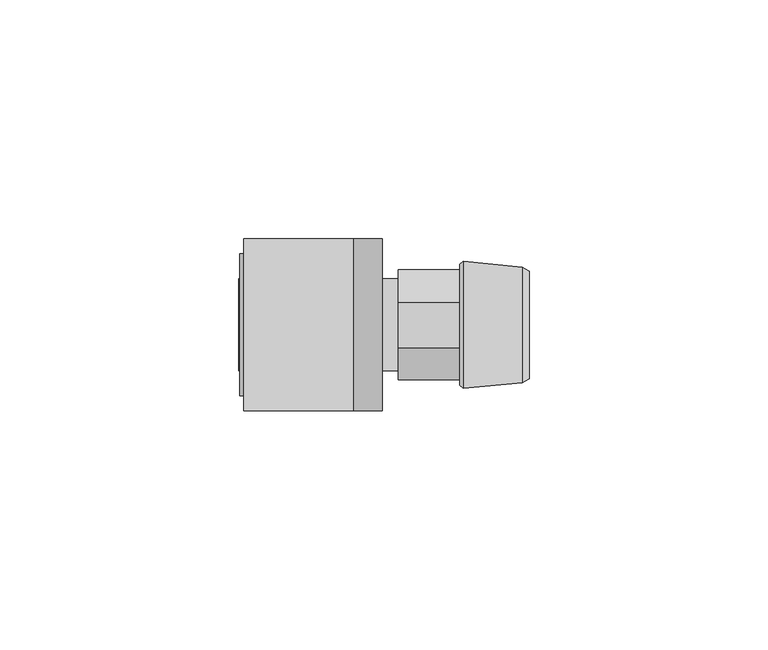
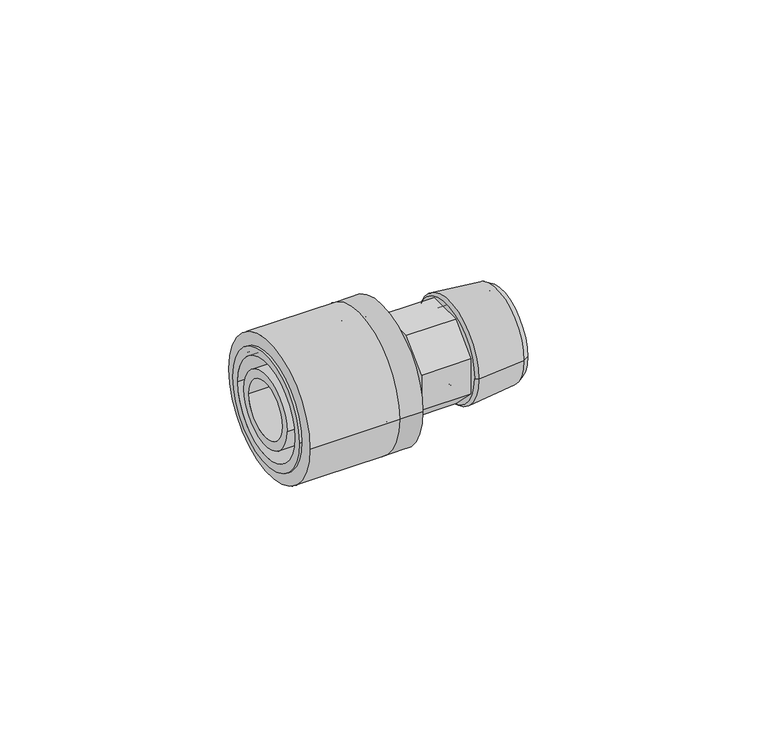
"""IFC4 building model written with IfcOpenShell, lengths in millimetres: pipe fitting geometry, FASTLOC_Adapter_LX, with external thread : FSL A C external CZ."""

import ifcopenshell
import ifcopenshell.guid

model = None  # the IFC model being written
_history = None  # IfcOwnerHistory: only IFC2X3 demands one
_inside = {}  # id of a spatial element -> (the spatial element, [elements in it])
_under = {}  # id of a project, library or spatial element -> (it, [spatial elements below it])
_declared = {}  # id of a project -> (the project, [libraries it declares])
_typed = {}  # id of a type object -> (the type object, [elements of that type])
_made_of = {}  # id of a material, layer set ... -> (it, [elements and type objects made of it])


def new_model(schema):
    """Start an empty IFC model of exactly this schema.

    Asked for "IFC4X3", IfcOpenShell would pick the latest addendum, in which some entities
    have other attributes; the version numbers below select the first issue.
    IFC2X3 requires an IfcOwnerHistory on every rooted entity: one is made here for all.
    """
    global model, _history
    if schema == "IFC4X3":
        model = ifcopenshell.file(schema_version=(4, 3, 0, 0))
    else:
        model = ifcopenshell.file(schema=schema)
    _inside.clear()
    _under.clear()
    _declared.clear()
    _typed.clear()
    _made_of.clear()
    _history = None
    if model.schema == "IFC2X3":
        org = make("IfcOrganization", Name="unknown")
        user = make(
            "IfcPersonAndOrganization",
            ThePerson=make("IfcPerson", FamilyName="unknown"),
            TheOrganization=org,
        )
        app = make(
            "IfcApplication",
            ApplicationDeveloper=org,
            Version="unknown",
            ApplicationFullName="unknown",
            ApplicationIdentifier="unknown",
        )
        _history = make(
            "IfcOwnerHistory",
            OwningUser=user,
            OwningApplication=app,
            ChangeAction="ADDED",
            CreationDate=0,
        )
    return model


def make(cls, **values):
    """One entity of the class cls with the attributes given. An attribute that is None is left unset."""
    return model.create_entity(
        cls, **{name: value for name, value in values.items() if value is not None}
    )


def rooted(cls, **values):
    """An entity with a GlobalId (a new one), such as an element, a storey or a relation."""
    return make(cls, GlobalId=ifcopenshell.guid.new(), OwnerHistory=_history, **values)


def si_unit(unit_type, name, prefix=None):
    """IfcSIUnit, for example si_unit("LENGTHUNIT", "METRE", prefix="MILLI")."""
    return make("IfcSIUnit", UnitType=unit_type, Prefix=prefix, Name=name)


def assignment(units):
    """IfcUnitAssignment: the units of a project."""
    return None if units is None else make("IfcUnitAssignment", Units=units)


def point(xyz):
    """IfcCartesianPoint."""
    return None if xyz is None else make("IfcCartesianPoint", Coordinates=xyz)


def direction(xyz):
    """IfcDirection."""
    return None if xyz is None else make("IfcDirection", DirectionRatios=xyz)


def frame(location, z_axis=None, x_axis=None):
    """IfcAxis2Placement3D, a coordinate frame: its origin and axes. An axis left out is left unset."""
    return make(
        "IfcAxis2Placement3D",
        Location=point(location),
        Axis=direction(z_axis),
        RefDirection=direction(x_axis),
    )


def frame_2d(location, x_axis=None):
    """IfcAxis2Placement2D, a coordinate frame in the plane: its origin and x axis."""
    return make(
        "IfcAxis2Placement2D", Location=point(location), RefDirection=direction(x_axis)
    )


def origin():
    """The frame at (0, 0, 0) with its axes left unset."""
    return frame((0.0, 0.0, 0.0))


def origin_2d():
    """The frame at (0, 0) in the plane with its x axis left unset."""
    return frame_2d((0.0, 0.0))


def place(relative_to, where):
    """IfcLocalPlacement: puts the frame where relative to a parent placement (None: the world)."""
    return make(
        "IfcLocalPlacement", PlacementRelTo=relative_to, RelativePlacement=where
    )


def context(
    kind, dimensions, precision=None, world=None, true_north=None, identifier=None
):
    """IfcGeometricRepresentationContext, for example the 3D "Model" context."""
    return make(
        "IfcGeometricRepresentationContext",
        ContextIdentifier=identifier,
        ContextType=kind,
        CoordinateSpaceDimension=dimensions,
        Precision=precision,
        WorldCoordinateSystem=world,
        TrueNorth=true_north,
    )


def project(units=None, contexts=None):
    """IfcProject with its units and contexts."""
    return rooted(
        "IfcProject",
        Name="project",
        RepresentationContexts=contexts,
        UnitsInContext=assignment(units),
    )


def spatial(cls, under=None, at=None, **own):
    """A site, building, storey or space (cls), placed at a placement, below another one or the project."""
    s = rooted(cls, ObjectPlacement=at, **own)
    if under is not None:
        _under.setdefault(under.id(), (under, []))[1].append(s)
    return s


def polyline(points):
    """IfcPolyline through the points."""
    return make("IfcPolyline", Points=[point(p) for p in points])


def circle_curve(where, radius):
    """IfcCircle in the frame where."""
    return make("IfcCircle", Position=where, Radius=radius)


def trimmed(basis, trim1, trim2, sense, master):
    """IfcTrimmedCurve: the piece of a basis curve between two trims."""
    return make(
        "IfcTrimmedCurve",
        BasisCurve=basis,
        Trim1=trim1,
        Trim2=trim2,
        SenseAgreement=sense,
        MasterRepresentation=master,
    )


def segment(curve, same_sense, transition):
    """IfcCompositeCurveSegment."""
    return make(
        "IfcCompositeCurveSegment",
        Transition=transition,
        SameSense=same_sense,
        ParentCurve=curve,
    )


def composite_curve(segments, self_intersect=None):
    """IfcCompositeCurve: segments joined end to end."""
    return make("IfcCompositeCurve", Segments=segments, SelfIntersect=self_intersect)


def outline(outer, holes=None, kind="AREA"):
    """IfcArbitraryClosedProfileDef: a profile drawn as a closed curve; with holes, ...WithVoids."""
    if holes is None:
        return make("IfcArbitraryClosedProfileDef", ProfileType=kind, OuterCurve=outer)
    return make(
        "IfcArbitraryProfileDefWithVoids",
        ProfileType=kind,
        OuterCurve=outer,
        InnerCurves=holes,
    )


def extrude(swept, where, along, depth):
    """IfcExtrudedAreaSolid: the profile swept, set in the frame where, extruded along a direction by depth."""
    return make(
        "IfcExtrudedAreaSolid",
        SweptArea=swept,
        Position=where,
        ExtrudedDirection=direction(along),
        Depth=depth,
    )


def shape(context_of_items, identifier, shape_type, items):
    """IfcShapeRepresentation: the items that make up one representation, for example the "Body"."""
    return make(
        "IfcShapeRepresentation",
        ContextOfItems=context_of_items,
        RepresentationIdentifier=identifier,
        RepresentationType=shape_type,
        Items=items,
    )


def source(mapping_origin, context_of_items, identifier, shape_type, items):
    """IfcRepresentationMap: a shape defined once, which mapped items show again and again."""
    return make(
        "IfcRepresentationMap",
        MappingOrigin=mapping_origin,
        MappedRepresentation=shape(context_of_items, identifier, shape_type, items),
    )


def transform(
    local_origin,
    x_axis=None,
    y_axis=None,
    z_axis=None,
    scale=None,
    scale2=None,
    scale3=None,
    uniform=True,
):
    """IfcCartesianTransformationOperator3D, or its non-uniform kind. x_axis, y_axis, z_axis: its Axis1, 2, 3."""
    if uniform:
        return make(
            "IfcCartesianTransformationOperator3D",
            Axis1=direction(x_axis),
            Axis2=direction(y_axis),
            LocalOrigin=point(local_origin),
            Scale=scale,
            Axis3=direction(z_axis),
        )
    return make(
        "IfcCartesianTransformationOperator3DnonUniform",
        Axis1=direction(x_axis),
        Axis2=direction(y_axis),
        LocalOrigin=point(local_origin),
        Scale=scale,
        Axis3=direction(z_axis),
        Scale2=scale2,
        Scale3=scale3,
    )


def mapped(mapping_source, mapping_target):
    """IfcMappedItem: shows the shape of a source again, moved by a transform."""
    return make(
        "IfcMappedItem", MappingSource=mapping_source, MappingTarget=mapping_target
    )


def made_of(thing, what):
    """Note that an element or type object is made of a material, layer set ...; save() writes the relation."""
    if what is not None:
        _made_of.setdefault(what.id(), (what, []))[1].append(thing)
    return thing


def element(
    cls,
    number,
    at=None,
    inside=None,
    cuts=None,
    type_object=None,
    material=None,
    context=None,
    identifier="Body",
    shape_type=None,
    held_by="IfcProductDefinitionShape",
    body=None,
    shapes=None,
    **own,
):
    """One element of the class cls, such as IfcWall. Its Tag is "e" and its number.

    at: its placement. inside: the storey or other place that contains it. cuts: it is an
    opening in that element (IfcRelVoidsElement). A single representation is given by context,
    identifier, shape_type and body (its items); several are given by shapes. held_by: the class
    of the entity that holds the representations. save() writes the other relations.
    """
    e = rooted(cls, Tag="e%d" % number, ObjectPlacement=at, **own)
    if body is not None:
        shapes = [shape(context, identifier, shape_type, body)]
    if shapes is not None:
        e.Representation = make(held_by, Representations=shapes)
    if inside is not None:
        _inside.setdefault(inside.id(), (inside, []))[1].append(e)
    if cuts is not None:
        rooted(
            "IfcRelVoidsElement", RelatingBuildingElement=cuts, RelatedOpeningElement=e
        )
    if type_object is not None:
        _typed.setdefault(type_object.id(), (type_object, []))[1].append(e)
    return made_of(e, material)


def aggregate(whole, parts):
    """IfcRelAggregates: a whole, such as a stair, and the parts it consists of."""
    return rooted("IfcRelAggregates", RelatingObject=whole, RelatedObjects=parts)


def save(model, path):
    """Write the relations noted so far, then the file.

    IfcRelAggregates (storeys below a building ...), IfcRelContainedInSpatialStructure (elements
    in a storey), IfcRelDefinesByType, IfcRelAssociatesMaterial and IfcRelDeclares: one each for
    every whole, place, type object, material and project.
    """
    for whole, parts in _under.values():
        aggregate(whole, parts)
    for where, things in _inside.values():
        rooted(
            "IfcRelContainedInSpatialStructure",
            RelatedElements=things,
            RelatingStructure=where,
        )
    for kind, things in _typed.values():
        rooted("IfcRelDefinesByType", RelatedObjects=things, RelatingType=kind)
    for what, things in _made_of.values():
        rooted("IfcRelAssociatesMaterial", RelatedObjects=things, RelatingMaterial=what)
    for by, libraries in _declared.values():
        rooted("IfcRelDeclares", RelatingContext=by, RelatedDefinitions=libraries)
    model.write(path)


def plane_surface(at):
    """IfcPlane: the flat surface through the origin of the frame at, square to its z axis."""
    return make("IfcPlane", Position=at)


def cylinder_surface(at, radius):
    """IfcCylindricalSurface: all points at the distance radius from the z axis of the frame at."""
    return make("IfcCylindricalSurface", Position=at, Radius=radius)


def revolved_surface(curve, axis_point, axis_direction):
    """IfcSurfaceOfRevolution: the curve turned about the line through axis_point along axis_direction."""
    return make(
        "IfcSurfaceOfRevolution",
        SweptCurve=make("IfcArbitraryOpenProfileDef", ProfileType="CURVE", Curve=curve),
        AxisPosition=make("IfcAxis1Placement", Location=point(axis_point), Axis=direction(axis_direction)),
    )


def advanced_brep(points, edges, surfaces, faces):
    """IfcAdvancedBrep: a solid bounded by faces that lie on surfaces and meet in shared edges.

    An edge is (start, end): straight between two places in points (the first is 0);
    or (start, end, curve); or (start, end, curve, False) where it runs against its curve.
    A face is (place in surfaces, loops), or (place, loops, False) where it looks against
    its surface's normal. A loop lists edges by number (the first is 1), with a minus sign
    where the edge is run from its end to its start. The first loop is the outer one.
    """
    corners = [point(p) for p in points]
    vertices = [make("IfcVertexPoint", VertexGeometry=c) for c in corners]
    made = []
    for start, end, *more in edges:
        made.append(
            make(
                "IfcEdgeCurve",
                EdgeStart=vertices[start],
                EdgeEnd=vertices[end],
                EdgeGeometry=more[0] if more else make("IfcPolyline", Points=[corners[start], corners[end]]),
                SameSense=more[1] if len(more) > 1 else True,
            )
        )
    hull = []
    for where, loops, *sense in faces:
        bounds = []
        for j, loop in enumerate(loops):
            ring = [make("IfcOrientedEdge", EdgeElement=made[abs(k) - 1], Orientation=k > 0) for k in loop]
            bounds.append(
                make(
                    "IfcFaceOuterBound" if j == 0 else "IfcFaceBound",
                    Bound=make("IfcEdgeLoop", EdgeList=ring),
                    Orientation=True,
                )
            )
        hull.append(make("IfcAdvancedFace", Bounds=bounds, FaceSurface=surfaces[where], SameSense=sense[0] if sense else True))
    return make("IfcAdvancedBrep", Outer=make("IfcClosedShell", CfsFaces=hull))


def pipe_fitting_a999c26e(model_context):
    return source(origin(), model_context, "Body", "SolidModel", [
        extrude(outline(composite_curve([segment(trimmed(circle_curve(origin_2d(), 18.0), [point((18.0, 0.0))], [point((-18.0, 0.0))], False, "CARTESIAN"), True, "CONTINUOUS"), segment(trimmed(circle_curve(origin_2d(), 18.0), [point((-18.0, 0.0))], [point((18.0, 0.0))], False, "CARTESIAN"), True, "CONTINUOUS")], self_intersect=False), holes=[composite_curve([segment(trimmed(circle_curve(origin_2d(), 13.5), [point((13.5, 0.0))], [point((-13.5, 0.0))], True, "CARTESIAN"), True, "CONTINUOUS"), segment(trimmed(circle_curve(origin_2d(), 13.5), [point((-13.5, 0.0))], [point((13.5, 0.0))], True, "CARTESIAN"), True, "CONTINUOUS")], self_intersect=False)]), frame((-32.4, 0.0, 0.0), z_axis=(1.0, 0.0, 0.0), x_axis=(0.0, 1.0, 0.0)), (0.0, 0.0, 1.0), 23.0),
        advanced_brep(
        [(-9.4, -18.0, 0.0), (-9.4, 18.0, 0.0), (-3.4, 18.0, 0.0), (-3.4, -18.0, 0.0), (-33.2, -14.85, 0.0), (-33.2, 14.85, 0.0), (-9.4, 14.85, 0.0), (-9.4, -14.85, 0.0), (-3.4, -12.65, 0.0), (-3.4, 12.65, 0.0), (-33.2, 12.65, 0.0), (-33.2, -12.65, 0.0)],
        [
            (0, 1, circle_curve(frame((-9.4, 0.0, 0.0), z_axis=(1.0, 0.0, 0.0), x_axis=(0.0, 1.0, 0.0)), 18.0)),
            (1, 2),
            (2, 3, circle_curve(frame((-3.4, 0.0, 0.0), z_axis=(-1.0, 0.0, 0.0), x_axis=(0.0, 1.0, 0.0)), 18.0)),
            (3, 0),
            (4, 5, circle_curve(frame((-33.2, 0.0, 0.0), z_axis=(1.0, 0.0, 0.0), x_axis=(0.0, 1.0, 0.0)), 14.85)),
            (5, 6),
            (6, 7, circle_curve(frame((-9.4, 0.0, 0.0), z_axis=(-1.0, 0.0, 0.0), x_axis=(0.0, 1.0, 0.0)), 14.85)),
            (7, 4),
            (8, 9, circle_curve(frame((-3.4, 0.0, 0.0), z_axis=(1.0, 0.0, 0.0), x_axis=(0.0, 1.0, 0.0)), 12.65)),
            (9, 10),
            (10, 11, circle_curve(frame((-33.2, 0.0, 0.0), z_axis=(-1.0, 0.0, 0.0), x_axis=(0.0, 1.0, 0.0)), 12.65)),
            (11, 8),
            (1, 0, circle_curve(frame((-9.4, 0.0, 0.0), z_axis=(1.0, 0.0, 0.0), x_axis=(0.0, -1.0, 0.0)), 18.0)),
            (3, 2, circle_curve(frame((-3.4, 0.0, 0.0), z_axis=(-1.0, 0.0, 0.0), x_axis=(0.0, -1.0, 0.0)), 18.0)),
            (6, 7, circle_curve(frame((-9.4, 0.0, 0.0), z_axis=(1.0, 0.0, 0.0), x_axis=(0.0, -1.0, 0.0)), 14.85)),
            (5, 4, circle_curve(frame((-33.2, 0.0, 0.0), z_axis=(1.0, 0.0, 0.0), x_axis=(0.0, -1.0, 0.0)), 14.85)),
            (10, 11, circle_curve(frame((-33.2, 0.0, 0.0), z_axis=(1.0, 0.0, 0.0), x_axis=(0.0, -1.0, 0.0)), 12.65)),
            (9, 8, circle_curve(frame((-3.4, 0.0, 0.0), z_axis=(1.0, 0.0, 0.0), x_axis=(0.0, -1.0, 0.0)), 12.65)),
        ],
        [
            cylinder_surface(frame((-3.4, 0.0, 0.0), z_axis=(-1.0, 0.0, 0.0), x_axis=(0.0, 1.0, 0.0)), 18.0),
            cylinder_surface(frame((-3.4, 0.0, 0.0), z_axis=(-1.0, 0.0, 0.0), x_axis=(0.0, 1.0, 0.0)), 14.85),
            revolved_surface(polyline([(-33.2, 12.65, 0.0), (-3.4, 12.65, 0.0)]), (-3.4, 0.0, 0.0), (-1.0, 0.0, 0.0)),
            cylinder_surface(frame((-3.4, 0.0, 0.0), z_axis=(-1.0, 0.0, 0.0), x_axis=(0.0, -1.0, 0.0)), 18.0),
            plane_surface(frame((-9.4, 0.0, 0.0), z_axis=(-1.0, 0.0, 0.0), x_axis=(0.0, -1.0, 0.0))),
            cylinder_surface(frame((-3.4, 0.0, 0.0), z_axis=(-1.0, 0.0, 0.0), x_axis=(0.0, -1.0, 0.0)), 14.85),
            plane_surface(frame((-33.2, 0.0, 0.0), z_axis=(-1.0, 0.0, 0.0), x_axis=(0.0, -1.0, 0.0))),
            revolved_surface(polyline([(-33.2, -12.65, 0.0), (-3.4, -12.65, 0.0)]), (-3.4, 0.0, 0.0), (-1.0, 0.0, 0.0)),
            plane_surface(frame((-3.4, 0.0, 0.0), z_axis=(1.0, 0.0, 0.0), x_axis=(0.0, -1.0, 0.0))),
        ],
        [
            (0, [[1, 2, 3, 4]]),
            (1, [[5, 6, 7, 8]]),
            (2, [[9, 10, 11, 12]]),
            (3, [[13, -4, 14, -2]]),
            (4, [[-13, -1], [15, -7]]),
            (5, [[16, -8, -15, -6]]),
            (6, [[-16, -5], [17, -11]]),
            (7, [[18, -12, -17, -10]]),
            (8, [[-14, -3], [-18, -9]]),
        ],
    ),
        advanced_brep(
        [(-9.4, 9.6, 0.0), (-9.4, -9.6, 0.0), (-33.4, -9.6, 0.0), (-33.4, 9.6, 0.0), (-6.6, 11.1, 0.0), (-6.6, -11.1, 0.0), (-9.4, -11.1, 0.0), (-9.4, 11.1, 0.0), (0.0, 9.6, 0.0), (0.0, -9.6, 0.0), (-6.6, -9.6, 0.0), (-6.6, 9.6, 0.0), (-33.4, 7.35, 0.0), (-33.4, -7.35, 0.0), (0.0, -7.35, 0.0), (0.0, 7.35, 0.0)],
        [
            (0, 1, circle_curve(frame((-9.4, 0.0, 0.0), z_axis=(-1.0, 0.0, 0.0), x_axis=(0.0, -1.0, 0.0)), 9.6)),
            (1, 2),
            (2, 3, circle_curve(frame((-33.4, 0.0, 0.0), z_axis=(1.0, 0.0, 0.0), x_axis=(0.0, -1.0, 0.0)), 9.6)),
            (3, 0),
            (4, 5, circle_curve(frame((-6.6, 0.0, 0.0), z_axis=(-1.0, 0.0, 0.0), x_axis=(0.0, -1.0, 0.0)), 11.1)),
            (5, 6),
            (6, 7, circle_curve(frame((-9.4, 0.0, 0.0), z_axis=(1.0, 0.0, 0.0), x_axis=(0.0, -1.0, 0.0)), 11.1)),
            (7, 4),
            (8, 9, circle_curve(frame((0.0, 0.0, 0.0), z_axis=(-1.0, 0.0, 0.0), x_axis=(0.0, -1.0, 0.0)), 9.6)),
            (9, 10),
            (10, 11, circle_curve(frame((-6.6, 0.0, 0.0), z_axis=(1.0, 0.0, 0.0), x_axis=(0.0, -1.0, 0.0)), 9.6)),
            (11, 8),
            (12, 13, circle_curve(frame((-33.4, 0.0, 0.0), z_axis=(-1.0, 0.0, 0.0), x_axis=(0.0, -1.0, 0.0)), 7.35)),
            (13, 14),
            (14, 15, circle_curve(frame((0.0, 0.0, 0.0), z_axis=(1.0, 0.0, 0.0), x_axis=(0.0, -1.0, 0.0)), 7.35)),
            (15, 12),
            (2, 3, circle_curve(frame((-33.4, 0.0, 0.0), z_axis=(-1.0, 0.0, 0.0), x_axis=(0.0, 1.0, 0.0)), 9.6)),
            (12, 13, circle_curve(frame((-33.4, 0.0, 0.0), z_axis=(1.0, 0.0, 0.0), x_axis=(0.0, 1.0, 0.0)), 7.35)),
            (1, 0, circle_curve(frame((-9.4, 0.0, 0.0), z_axis=(-1.0, 0.0, 0.0), x_axis=(0.0, 1.0, 0.0)), 9.6)),
            (6, 7, circle_curve(frame((-9.4, 0.0, 0.0), z_axis=(-1.0, 0.0, 0.0), x_axis=(0.0, 1.0, 0.0)), 11.1)),
            (5, 4, circle_curve(frame((-6.6, 0.0, 0.0), z_axis=(-1.0, 0.0, 0.0), x_axis=(0.0, 1.0, 0.0)), 11.1)),
            (10, 11, circle_curve(frame((-6.6, 0.0, 0.0), z_axis=(-1.0, 0.0, 0.0), x_axis=(0.0, 1.0, 0.0)), 9.6)),
            (9, 8, circle_curve(frame((0.0, 0.0, 0.0), z_axis=(-1.0, 0.0, 0.0), x_axis=(0.0, 1.0, 0.0)), 9.6)),
            (14, 15, circle_curve(frame((0.0, 0.0, 0.0), z_axis=(-1.0, 0.0, 0.0), x_axis=(0.0, 1.0, 0.0)), 7.35)),
        ],
        [
            cylinder_surface(frame((0.0, 0.0, 0.0), z_axis=(1.0, 0.0, 0.0), x_axis=(0.0, -1.0, 0.0)), 9.6),
            cylinder_surface(frame((0.0, 0.0, 0.0), z_axis=(1.0, 0.0, 0.0), x_axis=(0.0, -1.0, 0.0)), 11.1),
            revolved_surface(polyline([(0.0, -7.35, 0.0), (-33.4, -7.35, 0.0)]), (0.0, 0.0, 0.0), (1.0, 0.0, 0.0)),
            plane_surface(frame((-33.4, 0.0, 0.0), z_axis=(-1.0, 0.0, 0.0), x_axis=(0.0, 1.0, 0.0))),
            cylinder_surface(frame((0.0, 0.0, 0.0), z_axis=(1.0, 0.0, 0.0), x_axis=(0.0, 1.0, 0.0)), 9.6),
            plane_surface(frame((-9.4, 0.0, 0.0), z_axis=(-1.0, 0.0, 0.0), x_axis=(0.0, 1.0, 0.0))),
            cylinder_surface(frame((0.0, 0.0, 0.0), z_axis=(1.0, 0.0, 0.0), x_axis=(0.0, 1.0, 0.0)), 11.1),
            plane_surface(frame((-6.6, 0.0, 0.0), z_axis=(1.0, 0.0, 0.0), x_axis=(0.0, 1.0, 0.0))),
            plane_surface(frame((0.0, 0.0, 0.0), z_axis=(1.0, 0.0, 0.0), x_axis=(0.0, 1.0, 0.0))),
            revolved_surface(polyline([(0.0, 7.35, 0.0), (-33.4, 7.35, 0.0)]), (0.0, 0.0, 0.0), (1.0, 0.0, 0.0)),
        ],
        [
            (0, [[1, 2, 3, 4]]),
            (1, [[5, 6, 7, 8]]),
            (0, [[9, 10, 11, 12]]),
            (2, [[13, 14, 15, 16]]),
            (3, [[17, -3], [18, -13]]),
            (4, [[19, -4, -17, -2]]),
            (5, [[20, -7], [-19, -1]]),
            (6, [[21, -8, -20, -6]]),
            (7, [[-21, -5], [22, -11]]),
            (4, [[23, -12, -22, -10]]),
            (8, [[-23, -9], [24, -15]]),
            (9, [[-18, -16, -24, -14]]),
        ],
    ),
        advanced_brep(
        [(14.0032803, 9.5, 0.0), (14.0032803, -9.5, 0.0), (27.4, -9.5, 0.0), (27.4, 9.5, 0.0), (12.9, 8.3967197, 0.0), (12.9, -8.3967197, 0.0), (13.6406902, 13.3, 0.0), (13.6406902, -13.3, 0.0), (12.9, -12.7, 0.0), (12.9, 12.7, 0.0), (25.9000007, 12.1, 0.0), (25.9000007, -12.1, 0.0), (27.4, 11.25, 0.0), (27.4, -11.25, 0.0)],
        [
            (0, 1, circle_curve(frame((14.0032803, 0.0, 0.0), z_axis=(-1.0, 0.0, 0.0), x_axis=(0.0, -1.0, 0.0)), 9.5)),
            (1, 2),
            (2, 3, circle_curve(frame((27.4, 0.0, 0.0), z_axis=(1.0, 0.0, 0.0), x_axis=(0.0, -1.0, 0.0)), 9.5)),
            (3, 0),
            (4, 5, circle_curve(frame((12.9, 0.0, 0.0), z_axis=(-1.0, 0.0, 0.0), x_axis=(0.0, -1.0, 0.0)), 8.3967197)),
            (5, 1),
            (0, 4),
            (6, 7, circle_curve(frame((13.6406902, 0.0, 0.0), z_axis=(-1.0, 0.0, 0.0), x_axis=(0.0, -1.0, 0.0)), 13.3)),
            (7, 8),
            (8, 9, circle_curve(frame((12.9, 0.0, 0.0), z_axis=(1.0, 0.0, 0.0), x_axis=(0.0, -1.0, 0.0)), 12.7)),
            (9, 6),
            (10, 11, circle_curve(frame((25.9000007, 0.0, 0.0), z_axis=(-1.0, 0.0, 0.0), x_axis=(0.0, -1.0, 0.0)), 12.1)),
            (11, 7),
            (6, 10),
            (12, 13, circle_curve(frame((27.4, 0.0, 0.0), z_axis=(-1.0, 0.0, 0.0), x_axis=(0.0, -1.0, 0.0)), 11.25)),
            (13, 11),
            (10, 12),
            (1, 0, circle_curve(frame((14.0032803, 0.0, 0.0), z_axis=(-1.0, 0.0, 0.0), x_axis=(0.0, 1.0, 0.0)), 9.5)),
            (3, 2, circle_curve(frame((27.4, 0.0, 0.0), z_axis=(1.0, 0.0, 0.0), x_axis=(0.0, 1.0, 0.0)), 9.5)),
            (5, 4, circle_curve(frame((12.9, 0.0, 0.0), z_axis=(-1.0, 0.0, 0.0), x_axis=(0.0, 1.0, 0.0)), 8.3967197)),
            (8, 9, circle_curve(frame((12.9, 0.0, 0.0), z_axis=(-1.0, 0.0, 0.0), x_axis=(0.0, 1.0, 0.0)), 12.7)),
            (7, 6, circle_curve(frame((13.6406902, 0.0, 0.0), z_axis=(-1.0, 0.0, 0.0), x_axis=(0.0, 1.0, 0.0)), 13.3)),
            (11, 10, circle_curve(frame((25.9000007, 0.0, 0.0), z_axis=(-1.0, 0.0, 0.0), x_axis=(0.0, 1.0, 0.0)), 12.1)),
            (13, 12, circle_curve(frame((27.4, 0.0, 0.0), z_axis=(-1.0, 0.0, 0.0), x_axis=(0.0, 1.0, 0.0)), 11.25)),
        ],
        [
            revolved_surface(polyline([(27.4, -9.5, 0.0), (14.0032803, -9.5, 0.0)]), (0.0, 0.0, 0.0), (1.0, 0.0, 0.0)),
            revolved_surface(polyline([(14.0032803, -9.5, 0.0), (12.9, -8.3967197, 0.0)]), (0.0, 0.0, 0.0), (1.0, 0.0, 0.0)),
            revolved_surface(polyline([(12.9, -12.7, 0.0), (13.6406902, -13.3, 0.0)]), (0.0, 0.0, 0.0), (1.0, 0.0, 0.0)),
            revolved_surface(polyline([(13.6406902, -13.3, 0.0), (25.9000007, -12.1, 0.0)]), (0.0, 0.0, 0.0), (1.0, 0.0, 0.0)),
            revolved_surface(polyline([(25.9000007, -12.1, 0.0), (27.4, -11.25, 0.0)]), (0.0, 0.0, 0.0), (1.0, 0.0, 0.0)),
            revolved_surface(polyline([(27.4, 9.5, 0.0), (14.0032803, 9.5, 0.0)]), (0.0, 0.0, 0.0), (1.0, 0.0, 0.0)),
            revolved_surface(polyline([(14.0032803, 9.5, 0.0), (12.9, 8.3967197, 0.0)]), (0.0, 0.0, 0.0), (1.0, 0.0, 0.0)),
            plane_surface(frame((12.9, 0.0, 0.0), z_axis=(-1.0, 0.0, 0.0), x_axis=(0.0, 1.0, 0.0))),
            revolved_surface(polyline([(12.9, 12.7, 0.0), (13.6406902, 13.3, 0.0)]), (0.0, 0.0, 0.0), (1.0, 0.0, 0.0)),
            revolved_surface(polyline([(13.6406902, 13.3, 0.0), (25.9000007, 12.1, 0.0)]), (0.0, 0.0, 0.0), (1.0, 0.0, 0.0)),
            revolved_surface(polyline([(25.9000007, 12.1, 0.0), (27.4, 11.25, 0.0)]), (0.0, 0.0, 0.0), (1.0, 0.0, 0.0)),
            plane_surface(frame((27.4, 0.0, 0.0), z_axis=(1.0, 0.0, 0.0), x_axis=(0.0, 1.0, 0.0))),
        ],
        [
            (0, [[1, 2, 3, 4]]),
            (1, [[5, 6, -1, 7]]),
            (2, [[8, 9, 10, 11]]),
            (3, [[12, 13, -8, 14]]),
            (4, [[15, 16, -12, 17]]),
            (5, [[18, -4, 19, -2]]),
            (6, [[20, -7, -18, -6]]),
            (7, [[21, -10], [-20, -5]]),
            (8, [[22, -11, -21, -9]]),
            (9, [[23, -14, -22, -13]]),
            (10, [[24, -17, -23, -16]]),
            (11, [[-24, -15], [-19, -3]]),
        ],
    ),
        extrude(outline(polyline([(-11.5, 4.763456), (-4.763456, 11.5), (4.763456, 11.5), (11.5, 4.763456), (11.5, -4.763456), (4.763456, -11.5), (-4.763456, -11.5), (-11.5, -4.763456), (-11.5, 4.763456)])), frame((0.0, 0.0, 0.0), z_axis=(1.0, 0.0, 0.0), x_axis=(0.0, 1.0, 0.0)), (0.0, 0.0, 1.0), 12.9),
    ])


if __name__ == "__main__":
    model = new_model("IFC4")
    model_context = context("Model", 3, world=origin())
    ifc_project = project(units=[si_unit("LENGTHUNIT", "METRE", prefix="MILLI")], contexts=[model_context])
    site = spatial("IfcSite", under=ifc_project)
    building = spatial("IfcBuilding", under=site)
    placement = place(None, origin())
    pipe_fitting_shape = pipe_fitting_a999c26e(model_context)
    element("IfcPipeFitting", 1, ObjectType="FASTLOC_Adapter_LX, with external thread : FSL A C external CZ", at=placement, inside=building, context=model_context, shape_type="MappedRepresentation", body=[
        mapped(pipe_fitting_shape, transform((0.0, 0.0, 0.0), x_axis=(1.0, 0.0, 0.0), y_axis=(0.0, 1.0, 0.0), z_axis=(0.0, 0.0, 1.0))),
    ])
    save(model, "model.ifc")
